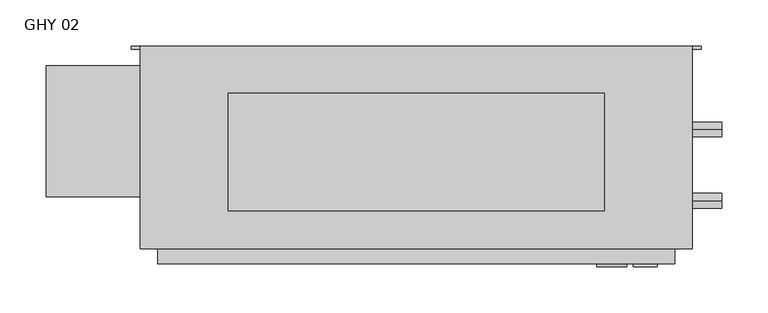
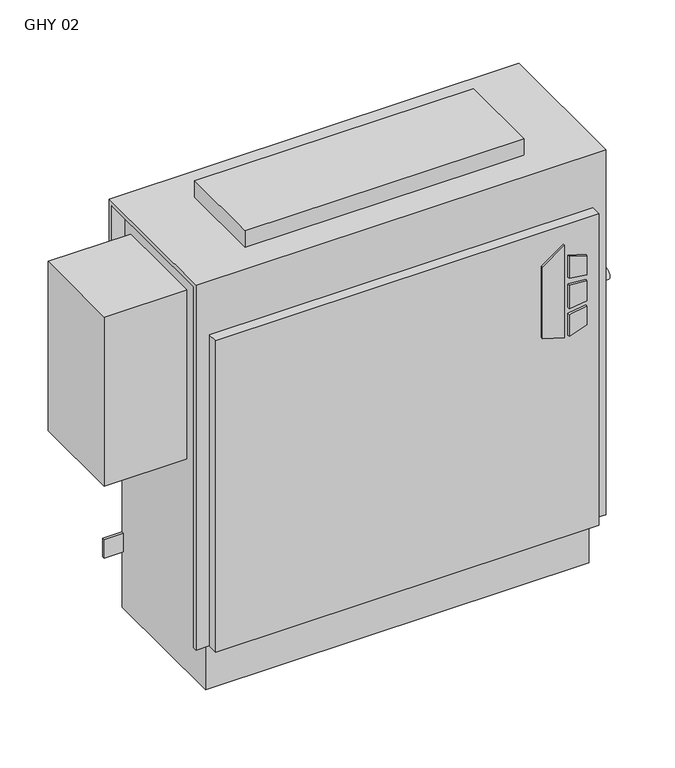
"""IFC4 building model written with IfcOpenShell, lengths in millimetres: proxy geometry, Vertical_Fan_Coil_Unit_-_GHY_-_IEC_-_2-Pipe_TS-FR_RH_2022 : GHY 02."""

from ifc_helpers import new_model, si_unit, point, frame, frame_2d, origin, place, context, project, spatial, polyline, circle_curve, trimmed, segment, composite_curve, outline, extrude, source, transform, mapped, element, save
from ifc_brep_helpers import plane_surface, revolved_surface, advanced_brep


def ghy_02_7dbef071(model_context):
    return source(origin(), model_context, "Body", "SolidModel", [
        extrude(outline(polyline([(391.6086829, 347.7368862), (381.6606126, 379.9102728), (523.831537, 379.9102728), (500.8095309, 347.7368862), (391.6086829, 347.7368862)])), frame((0.0, 6.35, 0.0), z_axis=(0.0, 1.0, 0.0), x_axis=(0.0, 0.0, 1.0)), (0.0, 0.0, 1.0), 3.175),
        extrude(outline(polyline([(470.6079683, 386.6686058), (467.4055757, 412.75), (496.6344168, 412.75), (504.6988318, 386.6686058), (470.6079683, 386.6686058)])), frame((0.0, 6.35, 0.0), z_axis=(0.0, 1.0, 0.0), x_axis=(0.0, 0.0, 1.0)), (0.0, 0.0, 1.0), 3.175),
        extrude(outline(polyline([(418.7444414, 412.75), (415.0789404, 386.6686058), (381.6606126, 386.6686058), (390.2948498, 412.75), (418.7444414, 412.75)])), frame((0.0, 6.35, 0.0), z_axis=(0.0, 1.0, 0.0), x_axis=(0.0, 0.0, 1.0)), (0.0, 0.0, 1.0), 3.175),
        extrude(outline(polyline([(458.0596028, 412.75), (460.3414292, 386.6686058), (424.4038806, 386.6686058), (427.1451456, 412.75), (458.0596028, 412.75)])), frame((0.0, 6.35, 0.0), z_axis=(0.0, 1.0, 0.0), x_axis=(0.0, 0.0, 1.0)), (0.0, 0.0, 1.0), 3.175),
        extrude(outline(polyline([(355.6, 193.675), (355.6, 66.675), (-50.8, 66.675), (-50.8, 193.675), (355.6, 193.675)])), frame((0.0, 0.0, 635.0), z_axis=(0.0, 0.0, 1.0), x_axis=(1.0, 0.0, 0.0)), (0.0, 0.0, 1.0), 25.4),
        extrude(outline(composite_curve([segment(trimmed(circle_curve(frame_2d((77.597, 401.574)), 7.9375), [point((77.597, 393.6365))], [point((77.597, 409.5115))], False, "CARTESIAN"), True, "CONTINUOUS"), segment(trimmed(circle_curve(frame_2d((77.597, 401.574)), 7.9375), [point((77.597, 409.5115))], [point((77.597, 393.6365))], False, "CARTESIAN"), True, "CONTINUOUS")], self_intersect=False)), frame((431.8, 0.0, 0.0), z_axis=(1.0, 0.0, 0.0), x_axis=(0.0, 1.0, 0.0)), (0.0, 0.0, 1.0), 50.8),
        extrude(outline(composite_curve([segment(trimmed(circle_curve(frame_2d((154.559, 540.512)), 7.9375), [point((154.559, 532.5745))], [point((154.559, 548.4495))], False, "CARTESIAN"), True, "CONTINUOUS"), segment(trimmed(circle_curve(frame_2d((154.559, 540.512)), 7.9375), [point((154.559, 548.4495))], [point((154.559, 532.5745))], False, "CARTESIAN"), True, "CONTINUOUS")], self_intersect=False)), frame((431.8, 0.0, 0.0), z_axis=(1.0, 0.0, 0.0), x_axis=(0.0, 1.0, 0.0)), (0.0, 0.0, 1.0), 50.8),
        extrude(outline(polyline([(-247.65, 223.266), (-127.0, 223.266), (-127.0, 81.534), (-247.65, 81.534), (-247.65, 223.266)])), frame((0.0, 0.0, 327.025), z_axis=(0.0, 0.0, 1.0), x_axis=(1.0, 0.0, 0.0)), (0.0, 0.0, 1.0), 260.35),
        advanced_brep(
        [(450.85, 244.475, 635.0), (-146.05, 244.475, 635.0), (-146.05, 25.4, 635.0), (450.85, 25.4, 635.0), (-127.0, 244.475, 0.0), (431.8, 244.475, 0.0), (431.8, 34.925, 0.0), (-127.0, 34.925, 0.0), (450.85, 244.475, 558.8), (431.8, 244.475, 558.8), (431.8, 244.475, 414.3375), (460.375, 244.475, 414.3375), (460.375, 244.475, 385.7625), (431.8, 244.475, 385.7625), (431.8, 244.475, 287.3375), (460.375, 244.475, 287.3375), (460.375, 244.475, 258.7625), (431.8, 244.475, 258.7625), (431.8, 244.475, 141.2875), (460.375, 244.475, 141.2875), (460.375, 244.475, 112.7125), (431.8, 244.475, 112.7125), (-127.0, 244.475, 87.3125), (-155.575, 244.475, 87.3125), (-155.575, 244.475, 115.8875), (-127.0, 244.475, 115.8875), (-127.0, 244.475, 258.7625), (-155.575, 244.475, 258.7625), (-155.575, 244.475, 287.3375), (-127.0, 244.475, 287.3375), (-127.0, 244.475, 385.7625), (-155.575, 244.475, 385.7625), (-155.575, 244.475, 414.3375), (-127.0, 244.475, 414.3375), (-127.0, 244.475, 558.8), (-146.05, 244.475, 558.8), (450.0626, 244.475, 127.0), (438.9374, 244.475, 127.0), (450.0626, 244.475, 273.05), (438.9374, 244.475, 273.05), (-134.1374, 244.475, 273.05), (-145.2626, 244.475, 273.05), (450.0626, 244.475, 400.05), (438.9374, 244.475, 400.05), (-134.1374, 244.475, 400.05), (-145.2626, 244.475, 400.05), (-146.05, 238.125, 558.8), (-146.05, 238.125, 628.65), (-146.05, 31.75, 628.65), (-146.05, 31.75, 73.025), (-146.05, 25.4, 73.025), (431.8, 9.525, 552.45), (-127.0, 9.525, 552.45), (-127.0, 9.525, 73.025), (431.8, 9.525, 73.025), (450.85, 25.4, 73.025), (450.85, 31.75, 73.025), (450.85, 31.75, 628.65), (450.85, 238.125, 628.65), (450.85, 238.125, 558.8), (-127.0, 25.4, 73.025), (-127.0, 25.4, 552.45), (431.8, 25.4, 552.45), (431.8, 25.4, 73.025), (-127.0, 31.75, 73.025), (-127.0, 34.925, 73.025), (431.8, 34.925, 73.025), (431.8, 31.75, 73.025), (431.8, 241.3, 112.7125), (431.8, 241.3, 141.2875), (431.8, 241.3, 258.7625), (431.8, 241.3, 287.3375), (431.8, 241.3, 385.7625), (431.8, 241.3, 414.3375), (431.8, 238.125, 558.8), (431.8, 238.125, 628.65), (431.8, 31.75, 628.65), (-127.0, 31.75, 628.65), (-127.0, 238.125, 628.65), (-127.0, 238.125, 558.8), (-127.0, 241.3, 414.3375), (-127.0, 241.3, 385.7625), (-127.0, 241.3, 287.3375), (-127.0, 241.3, 258.7625), (-127.0, 241.3, 115.8875), (-127.0, 241.3, 87.3125), (460.375, 241.3, 112.7125), (460.375, 241.3, 141.2875), (438.9374, 241.3, 127.0), (450.0626, 241.3, 127.0), (460.375, 241.3, 258.7625), (460.375, 241.3, 287.3375), (438.9374, 241.3, 273.05), (450.0626, 241.3, 273.05), (460.375, 241.3, 385.7625), (460.375, 241.3, 414.3375), (438.9374, 241.3, 400.05), (450.0626, 241.3, 400.05), (-155.575, 241.3, 115.8875), (-155.575, 241.3, 87.3125), (-155.575, 241.3, 287.3375), (-155.575, 241.3, 258.7625), (-145.2626, 241.3, 273.05), (-134.1374, 241.3, 273.05), (-155.575, 241.3, 414.3375), (-155.575, 241.3, 385.7625), (-145.2626, 241.3, 400.05), (-134.1374, 241.3, 400.05)],
        [
            (0, 1),
            (1, 2),
            (2, 3),
            (3, 0),
            (4, 5),
            (5, 6),
            (6, 7),
            (7, 4),
            (0, 8),
            (8, 9),
            (9, 10),
            (10, 11),
            (11, 12),
            (12, 13),
            (13, 14),
            (14, 15),
            (15, 16),
            (16, 17),
            (17, 18),
            (18, 19),
            (19, 20),
            (20, 21),
            (21, 5),
            (4, 22),
            (22, 23),
            (23, 24),
            (24, 25),
            (25, 26),
            (26, 27),
            (27, 28),
            (28, 29),
            (29, 30),
            (30, 31),
            (31, 32),
            (32, 33),
            (33, 34),
            (34, 35),
            (35, 1),
            (36, 37, circle_curve(frame((444.5, 244.475, 127.0), z_axis=(0.0, -1.0, 0.0), x_axis=(-1.0, 0.0, 0.0)), 5.5626)),
            (37, 36, circle_curve(frame((444.5, 244.475, 127.0), z_axis=(0.0, -1.0, 0.0), x_axis=(-1.0, 0.0, 0.0)), 5.5626)),
            (38, 39, circle_curve(frame((444.5, 244.475, 273.05), z_axis=(0.0, -1.0, 0.0), x_axis=(-1.0, 0.0, 0.0)), 5.5626)),
            (39, 38, circle_curve(frame((444.5, 244.475, 273.05), z_axis=(0.0, -1.0, 0.0), x_axis=(-1.0, 0.0, 0.0)), 5.5626)),
            (40, 41, circle_curve(frame((-139.7, 244.475, 273.05), z_axis=(0.0, -1.0, 0.0), x_axis=(-1.0, 0.0, 0.0)), 5.5626)),
            (41, 40, circle_curve(frame((-139.7, 244.475, 273.05), z_axis=(0.0, -1.0, 0.0), x_axis=(-1.0, 0.0, 0.0)), 5.5626)),
            (42, 43, circle_curve(frame((444.5, 244.475, 400.05), z_axis=(0.0, -1.0, 0.0), x_axis=(-1.0, 0.0, 0.0)), 5.5626)),
            (43, 42, circle_curve(frame((444.5, 244.475, 400.05), z_axis=(0.0, -1.0, 0.0), x_axis=(-1.0, 0.0, 0.0)), 5.5626)),
            (44, 45, circle_curve(frame((-139.7, 244.475, 400.05), z_axis=(0.0, -1.0, 0.0), x_axis=(-1.0, 0.0, 0.0)), 5.5626)),
            (45, 44, circle_curve(frame((-139.7, 244.475, 400.05), z_axis=(0.0, -1.0, 0.0), x_axis=(-1.0, 0.0, 0.0)), 5.5626)),
            (35, 46),
            (46, 47),
            (47, 48),
            (48, 49),
            (49, 50),
            (50, 2),
            (51, 52),
            (52, 53),
            (53, 54),
            (54, 51),
            (3, 55),
            (55, 56),
            (56, 57),
            (57, 58),
            (58, 59),
            (59, 8),
            (50, 60),
            (60, 61),
            (61, 62),
            (62, 63),
            (63, 55),
            (51, 62),
            (61, 52),
            (53, 60),
            (49, 64),
            (64, 65),
            (65, 66),
            (66, 67),
            (67, 56),
            (63, 54),
            (6, 66),
            (65, 7),
            (21, 68),
            (68, 69),
            (69, 18),
            (17, 70),
            (70, 71),
            (71, 14),
            (13, 72),
            (72, 73),
            (73, 10),
            (9, 74),
            (74, 75),
            (75, 76),
            (76, 67),
            (64, 77),
            (77, 78),
            (78, 79),
            (79, 34),
            (33, 80),
            (80, 81),
            (81, 30),
            (29, 82),
            (82, 83),
            (83, 26),
            (25, 84),
            (84, 85),
            (85, 22),
            (74, 59),
            (58, 75),
            (76, 57),
            (48, 77),
            (79, 46),
            (78, 47),
            (68, 86),
            (86, 87),
            (87, 69),
            (88, 89, circle_curve(frame((444.5, 241.3, 127.0), z_axis=(0.0, 1.0, 0.0), x_axis=(-1.0, 0.0, 0.0)), 5.5626)),
            (89, 88, circle_curve(frame((444.5, 241.3, 127.0), z_axis=(0.0, 1.0, 0.0), x_axis=(-1.0, 0.0, 0.0)), 5.5626)),
            (90, 91),
            (91, 71),
            (70, 90),
            (92, 93, circle_curve(frame((444.5, 241.3, 273.05), z_axis=(0.0, 1.0, 0.0), x_axis=(-1.0, 0.0, 0.0)), 5.5626)),
            (93, 92, circle_curve(frame((444.5, 241.3, 273.05), z_axis=(0.0, 1.0, 0.0), x_axis=(-1.0, 0.0, 0.0)), 5.5626)),
            (94, 95),
            (95, 73),
            (72, 94),
            (96, 97, circle_curve(frame((444.5, 241.3, 400.05), z_axis=(0.0, 1.0, 0.0), x_axis=(-1.0, 0.0, 0.0)), 5.5626)),
            (97, 96, circle_curve(frame((444.5, 241.3, 400.05), z_axis=(0.0, 1.0, 0.0), x_axis=(-1.0, 0.0, 0.0)), 5.5626)),
            (98, 99),
            (99, 85),
            (84, 98),
            (82, 100),
            (100, 101),
            (101, 83),
            (102, 103, circle_curve(frame((-139.7, 241.3, 273.05), z_axis=(0.0, 1.0, 0.0), x_axis=(-1.0, 0.0, 0.0)), 5.5626)),
            (103, 102, circle_curve(frame((-139.7, 241.3, 273.05), z_axis=(0.0, 1.0, 0.0), x_axis=(-1.0, 0.0, 0.0)), 5.5626)),
            (104, 105),
            (105, 81),
            (80, 104),
            (106, 107, circle_curve(frame((-139.7, 241.3, 400.05), z_axis=(0.0, 1.0, 0.0), x_axis=(-1.0, 0.0, 0.0)), 5.5626)),
            (107, 106, circle_curve(frame((-139.7, 241.3, 400.05), z_axis=(0.0, 1.0, 0.0), x_axis=(-1.0, 0.0, 0.0)), 5.5626)),
            (87, 19),
            (86, 20),
            (16, 90),
            (91, 15),
            (12, 94),
            (95, 11),
            (24, 98),
            (99, 23),
            (101, 27),
            (100, 28),
            (32, 104),
            (105, 31),
            (88, 37),
            (36, 89),
            (92, 39),
            (38, 93),
            (102, 41),
            (40, 103),
            (96, 43),
            (42, 97),
            (106, 45),
            (44, 107),
        ],
        [
            plane_surface(frame((-146.05, 244.475, 635.0), z_axis=(0.0, 0.0, 1.0), x_axis=(-1.0, 0.0, 0.0))),
            plane_surface(frame((-146.05, 244.475, 0.0), z_axis=(0.0, 0.0, -1.0), x_axis=(1.0, 0.0, 0.0))),
            plane_surface(frame((450.85, 244.475, 635.0), z_axis=(0.0, 1.0, 0.0), x_axis=(0.0, 0.0, -1.0))),
            plane_surface(frame((-146.05, 244.475, 635.0), z_axis=(-1.0, 0.0, 0.0), x_axis=(0.0, 0.0, -1.0))),
            plane_surface(frame((-146.05, 9.525, 635.0), z_axis=(0.0, -1.0, 0.0), x_axis=(0.0, 0.0, -1.0))),
            plane_surface(frame((450.85, 9.525, 635.0), z_axis=(1.0, 0.0, 0.0), x_axis=(0.0, 0.0, -1.0))),
            plane_surface(frame((-146.05, 25.4, 635.0), z_axis=(0.0, -1.0, 0.0), x_axis=(1.0, 0.0, 0.0))),
            plane_surface(frame((-146.05, 25.4, 552.45), z_axis=(0.0, 0.0, 1.0), x_axis=(1.0, 0.0, 0.0))),
            plane_surface(frame((-146.05, 9.525, 73.025), z_axis=(0.0, 0.0, -1.0), x_axis=(1.0, 0.0, 0.0))),
            plane_surface(frame((-146.05, 34.925, 73.025), z_axis=(0.0, -1.0, 0.0), x_axis=(1.0, 0.0, 0.0))),
            plane_surface(frame((431.8, 25.4, 73.025), z_axis=(1.0, 0.0, 0.0), x_axis=(0.0, -1.0, 0.0))),
            plane_surface(frame((-127.0, 25.4, 552.45), z_axis=(-1.0, 0.0, 0.0), x_axis=(0.0, -1.0, 0.0))),
            plane_surface(frame((431.8, 244.475, 0.0), z_axis=(1.0, 0.0, 0.0), x_axis=(0.0, -1.0, 0.0))),
            plane_surface(frame((-127.0, 244.475, 73.025), z_axis=(-1.0, 0.0, 0.0), x_axis=(0.0, -1.0, 0.0))),
            plane_surface(frame((431.8, 238.125, 628.65), z_axis=(0.0, -1.0, 0.0), x_axis=(1.0, 0.0, 0.0))),
            plane_surface(frame((431.8, 238.125, 558.8), z_axis=(0.0, 0.0, -1.0), x_axis=(1.0, 0.0, 0.0))),
            plane_surface(frame((431.8, 31.75, 73.025), z_axis=(0.0, 1.0, 0.0), x_axis=(1.0, 0.0, 0.0))),
            plane_surface(frame((431.8, 31.75, 628.65), z_axis=(0.0, 0.0, -1.0), x_axis=(1.0, 0.0, 0.0))),
            plane_surface(frame((-127.0, 31.75, 628.65), z_axis=(0.0, 1.0, 0.0), x_axis=(-1.0, 0.0, 0.0))),
            plane_surface(frame((-127.0, 244.475, 558.8), z_axis=(0.0, 0.0, -1.0), x_axis=(-1.0, 0.0, 0.0))),
            plane_surface(frame((-127.0, 238.125, 558.8), z_axis=(0.0, -1.0, 0.0), x_axis=(-1.0, 0.0, 0.0))),
            plane_surface(frame((-127.0, 238.125, 628.65), z_axis=(0.0, 0.0, -1.0), x_axis=(-1.0, 0.0, 0.0))),
            plane_surface(frame((460.375, 241.3, 141.2875), z_axis=(0.0, -1.0, 0.0), x_axis=(-1.0, 0.0, 0.0))),
            plane_surface(frame((431.8, 244.475, 141.2875), z_axis=(0.0, 0.0, 1.0), x_axis=(0.0, -1.0, 0.0))),
            plane_surface(frame((460.375, 244.475, 141.2875), z_axis=(1.0, 0.0, 0.0), x_axis=(0.0, -1.0, 0.0))),
            plane_surface(frame((460.375, 244.475, 112.7125), z_axis=(0.0, 0.0, -1.0), x_axis=(0.0, -1.0, 0.0))),
            plane_surface(frame((460.375, 244.475, 258.7625), z_axis=(0.0, 0.0, -1.0), x_axis=(0.0, -1.0, 0.0))),
            plane_surface(frame((431.8, 244.475, 287.3375), z_axis=(0.0, 0.0, 1.0), x_axis=(0.0, -1.0, 0.0))),
            plane_surface(frame((460.375, 244.475, 287.3375), z_axis=(1.0, 0.0, 0.0), x_axis=(0.0, -1.0, 0.0))),
            plane_surface(frame((460.375, 244.475, 385.7625), z_axis=(0.0, 0.0, -1.0), x_axis=(0.0, -1.0, 0.0))),
            plane_surface(frame((431.8, 244.475, 414.3375), z_axis=(0.0, 0.0, 1.0), x_axis=(0.0, -1.0, 0.0))),
            plane_surface(frame((460.375, 244.475, 414.3375), z_axis=(1.0, 0.0, 0.0), x_axis=(0.0, -1.0, 0.0))),
            plane_surface(frame((-155.575, 244.475, 115.8875), z_axis=(0.0, 0.0, 1.0), x_axis=(0.0, -1.0, 0.0))),
            plane_surface(frame((-127.0, 244.475, 87.3125), z_axis=(0.0, 0.0, -1.0), x_axis=(0.0, -1.0, 0.0))),
            plane_surface(frame((-155.575, 244.475, 87.3125), z_axis=(-1.0, 0.0, 0.0), x_axis=(0.0, -1.0, 0.0))),
            plane_surface(frame((-127.0, 244.475, 258.7625), z_axis=(0.0, 0.0, -1.0), x_axis=(0.0, -1.0, 0.0))),
            plane_surface(frame((-155.575, 244.475, 258.7625), z_axis=(-1.0, 0.0, 0.0), x_axis=(0.0, -1.0, 0.0))),
            plane_surface(frame((-155.575, 244.475, 287.3375), z_axis=(0.0, 0.0, 1.0), x_axis=(0.0, -1.0, 0.0))),
            plane_surface(frame((-155.575, 244.475, 414.3375), z_axis=(0.0, 0.0, 1.0), x_axis=(0.0, -1.0, 0.0))),
            plane_surface(frame((-127.0, 244.475, 385.7625), z_axis=(0.0, 0.0, -1.0), x_axis=(0.0, -1.0, 0.0))),
            plane_surface(frame((-155.575, 244.475, 385.7625), z_axis=(-1.0, 0.0, 0.0), x_axis=(0.0, -1.0, 0.0))),
            revolved_surface(polyline([(438.9374, 241.3, 127.0), (438.9374, 244.475, 127.0)]), (444.5, 244.475, 127.0), (0.0, -1.0, 0.0)),
            revolved_surface(polyline([(438.9374, 241.3, 273.05), (438.9374, 244.475, 273.05)]), (444.5, 244.475, 273.05), (0.0, -1.0, 0.0)),
            revolved_surface(polyline([(-145.2626, 241.3, 273.05), (-145.2626, 244.475, 273.05)]), (-139.7, 244.475, 273.05), (0.0, -1.0, 0.0)),
            revolved_surface(polyline([(438.9374, 241.3, 400.05), (438.9374, 244.475, 400.05)]), (444.5, 244.475, 400.05), (0.0, -1.0, 0.0)),
            revolved_surface(polyline([(-145.2626, 241.3, 400.05), (-145.2626, 244.475, 400.05)]), (-139.7, 244.475, 400.05), (0.0, -1.0, 0.0)),
        ],
        [
            (0, [[1, 2, 3, 4]]),
            (1, [[5, 6, 7, 8]]),
            (2, [[-1, 9, 10, 11, 12, 13, 14, 15, 16, 17, 18, 19, 20, 21, 22, 23, -5, 24, 25, 26, 27, 28, 29, 30, 31, 32, 33, 34, 35, 36, 37, 38], [39, 40], [41, 42], [43, 44], [45, 46], [47, 48]]),
            (3, [[-2, -38, 49, 50, 51, 52, 53, 54]]),
            (4, [[55, 56, 57, 58]]),
            (5, [[-4, 59, 60, 61, 62, 63, 64, -9]]),
            (6, [[-3, -54, 65, 66, 67, 68, 69, -59]]),
            (7, [[-55, 70, -67, 71]]),
            (8, [[-57, 72, -65, -53, 73, 74, 75, 76, 77, -60, -69, 78]]),
            (9, [[-7, 79, -75, 80]]),
            (10, [[-68, -70, -58, -78]]),
            (11, [[-66, -72, -56, -71]]),
            (12, [[-6, -23, 81, 82, 83, -19, 84, 85, 86, -15, 87, 88, 89, -11, 90, 91, 92, 93, -76, -79]]),
            (13, [[-8, -80, -74, 94, 95, 96, 97, -36, 98, 99, 100, -32, 101, 102, 103, -28, 104, 105, 106, -24]]),
            (14, [[-91, 107, -63, 108]]),
            (15, [[-90, -10, -64, -107]]),
            (16, [[-93, 109, -61, -77]]),
            (17, [[-92, -108, -62, -109]]),
            (18, [[-94, -73, -52, 110]]),
            (19, [[-97, 111, -49, -37]]),
            (20, [[-96, 112, -50, -111]]),
            (21, [[-95, -110, -51, -112]]),
            (22, [[113, 114, 115, -82], [116, 117]]),
            (22, [[118, 119, -85, 120], [121, 122]]),
            (22, [[123, 124, -88, 125], [126, 127]]),
            (22, [[128, 129, -105, 130]]),
            (22, [[131, 132, 133, -102], [134, 135]]),
            (22, [[136, 137, -99, 138], [139, 140]]),
            (23, [[-115, 141, -20, -83]]),
            (24, [[-114, 142, -21, -141]]),
            (25, [[-113, -81, -22, -142]]),
            (26, [[-120, -84, -18, 143]]),
            (27, [[-119, 144, -16, -86]]),
            (28, [[-118, -143, -17, -144]]),
            (29, [[-125, -87, -14, 145]]),
            (30, [[-124, 146, -12, -89]]),
            (31, [[-123, -145, -13, -146]]),
            (32, [[-130, -104, -27, 147]]),
            (33, [[-129, 148, -25, -106]]),
            (34, [[-128, -147, -26, -148]]),
            (35, [[-133, 149, -29, -103]]),
            (36, [[-132, 150, -30, -149]]),
            (37, [[-131, -101, -31, -150]]),
            (38, [[-138, -98, -35, 151]]),
            (39, [[-137, 152, -33, -100]]),
            (40, [[-136, -151, -34, -152]]),
            (41, [[153, -39, 154, -116]]),
            (41, [[-153, -117, -154, -40]]),
            (42, [[155, -41, 156, -121]]),
            (42, [[-155, -122, -156, -42]]),
            (43, [[157, -43, 158, -134]]),
            (43, [[-157, -135, -158, -44]]),
            (44, [[159, -45, 160, -126]]),
            (44, [[-159, -127, -160, -46]]),
            (45, [[161, -47, 162, -139]]),
            (45, [[-161, -140, -162, -48]]),
        ],
    ),
    ])


if __name__ == "__main__":
    model = new_model("IFC4")
    model_context = context("Model", 3, world=origin())
    ifc_project = project(units=[si_unit("LENGTHUNIT", "METRE", prefix="MILLI")], contexts=[model_context])
    site = spatial("IfcSite", under=ifc_project)
    building = spatial("IfcBuilding", under=site)
    placement = place(None, origin())
    ghy_02_shape = ghy_02_7dbef071(model_context)
    element("IfcBuildingElementProxy", 1, Name="Vertical_Fan_Coil_Unit_-_GHY_-_IEC_-_2-Pipe_TS-FR_RH_2022 : GHY 02", ObjectType="Vertical_Fan_Coil_Unit_-_GHY_-_IEC_-_2-Pipe_TS-FR_RH_2022 : GHY 02", at=placement, inside=building, context=model_context, shape_type="MappedRepresentation", body=[
        mapped(ghy_02_shape, transform((0.0, 0.0, 0.0), x_axis=(1.0, 0.0, 0.0), y_axis=(0.0, 1.0, 0.0), z_axis=(0.0, 0.0, 1.0))),
    ])
    save(model, "model.ifc")
